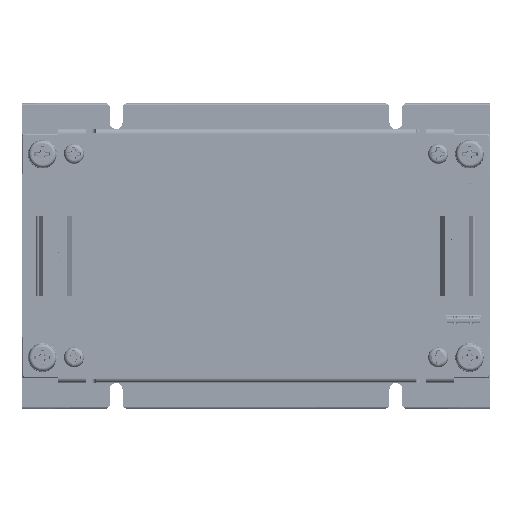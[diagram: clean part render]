
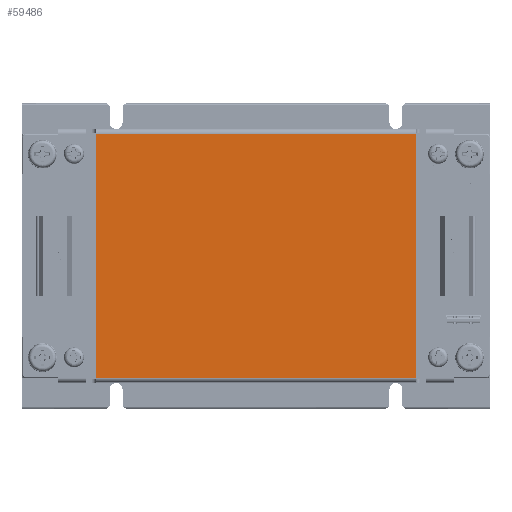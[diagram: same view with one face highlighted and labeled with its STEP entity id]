
A CAD part, top view. The second image highlights one B-rep face of the part: STEP entity #59486.
In plain terms, the highlighted planar face has unit normal (0, 0, 1).
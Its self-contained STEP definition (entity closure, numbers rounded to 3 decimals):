
#12100 = LINE ( 'NONE', #33083, #319512 ) ;
#15109 = EDGE_CURVE ( 'NONE', #223826, #32417, #289887, .T. ) ;
#19741 = VECTOR ( 'NONE', #264574, 1000. ) ;
#19755 = DIRECTION ( 'NONE',  ( 0., 1., 0. ) ) ;
#21464 = CARTESIAN_POINT ( 'NONE',  ( -40.008, -20.453, 16.7 ) ) ;
#29963 = DIRECTION ( 'NONE',  ( 0., 0., 1. ) ) ;
#32417 = VERTEX_POINT ( 'NONE', #110683 ) ;
#33083 = CARTESIAN_POINT ( 'NONE',  ( -40.008, -20.253, 16.7 ) ) ;
#52668 = VECTOR ( 'NONE', #187991, 1000. ) ;
#56265 = CARTESIAN_POINT ( 'NONE',  ( 39.992, 40.707, 16.7 ) ) ;
#59486 = ADVANCED_FACE ( 'NONE', ( #294978 ), #162533, .T. ) ;
#66162 = DIRECTION ( 'NONE',  ( 1., 0., 0. ) ) ;
#102284 = CARTESIAN_POINT ( 'NONE',  ( -40.008, -20.253, 16.7 ) ) ;
#105525 = VERTEX_POINT ( 'NONE', #213361 ) ;
#110683 = CARTESIAN_POINT ( 'NONE',  ( -40.008, 40.707, 16.7 ) ) ;
#116733 = EDGE_CURVE ( 'NONE', #105525, #186859, #158294, .T. ) ;
#122393 = ORIENTED_EDGE ( 'NONE', *, *, #147144, .T. ) ;
#147144 = EDGE_CURVE ( 'NONE', #186859, #32417, #240256, .T. ) ;
#153888 = EDGE_LOOP ( 'NONE', ( #294353, #122393, #329475, #327862 ) ) ;
#158294 = LINE ( 'NONE', #210588, #19741 ) ;
#162533 = PLANE ( 'NONE',  #175997 ) ;
#175997 = AXIS2_PLACEMENT_3D ( 'NONE', #268808, #29963, #193834 ) ;
#186859 = VERTEX_POINT ( 'NONE', #56265 ) ;
#187991 = DIRECTION ( 'NONE',  ( -1., 0., 0. ) ) ;
#193834 = DIRECTION ( 'NONE',  ( 0., -1., 0. ) ) ;
#210588 = CARTESIAN_POINT ( 'NONE',  ( 39.992, -20.453, 16.7 ) ) ;
#213361 = CARTESIAN_POINT ( 'NONE',  ( 39.992, -20.253, 16.7 ) ) ;
#215844 = CARTESIAN_POINT ( 'NONE',  ( 39.992, 40.707, 16.7 ) ) ;
#223826 = VERTEX_POINT ( 'NONE', #102284 ) ;
#240256 = LINE ( 'NONE', #215844, #52668 ) ;
#252528 = VECTOR ( 'NONE', #19755, 1000. ) ;
#264574 = DIRECTION ( 'NONE',  ( 0., 1., 0. ) ) ;
#268808 = CARTESIAN_POINT ( 'NONE',  ( -40.008, -20.453, 16.7 ) ) ;
#289887 = LINE ( 'NONE', #21464, #252528 ) ;
#294353 = ORIENTED_EDGE ( 'NONE', *, *, #116733, .T. ) ;
#294978 = FACE_OUTER_BOUND ( 'NONE', #153888, .T. ) ;
#308006 = EDGE_CURVE ( 'NONE', #223826, #105525, #12100, .T. ) ;
#319512 = VECTOR ( 'NONE', #66162, 1000. ) ;
#327862 = ORIENTED_EDGE ( 'NONE', *, *, #308006, .T. ) ;
#329475 = ORIENTED_EDGE ( 'NONE', *, *, #15109, .F. ) ;
